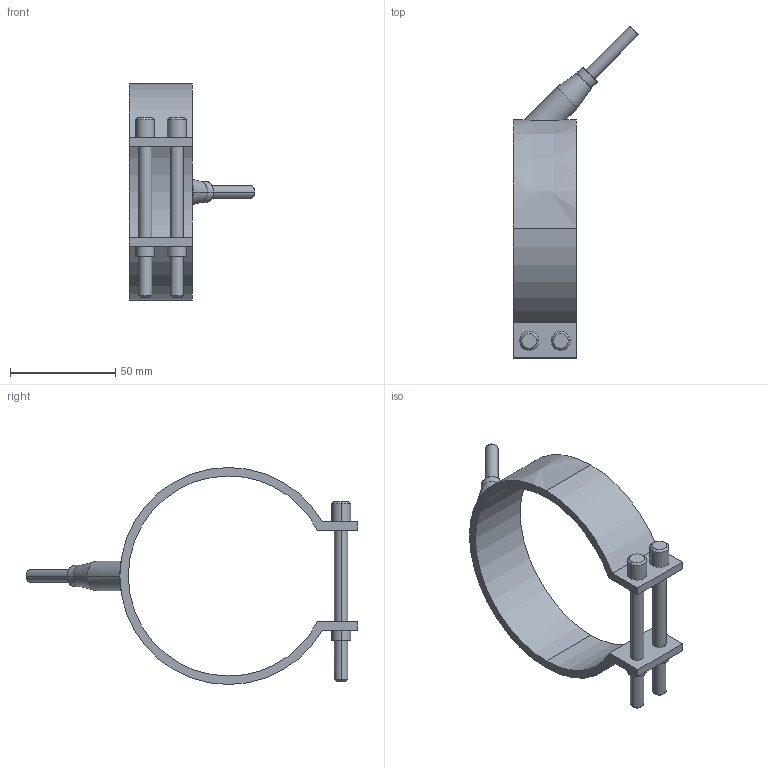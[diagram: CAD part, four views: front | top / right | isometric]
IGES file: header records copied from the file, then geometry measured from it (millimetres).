
Start section: START RECORD GO HERE.
Global section: file name: 29095030.igs; native system: DASSAULT SYSTEMES CATIA V5 R20 - www.3ds.com; preprocessor: CATIA Version 5 Release 20 ; author: Utente; organization: NB04-ASUS; date: 20210329.195447; units: millimetre
Bounding box: 59.55 x 157.55 x 103 mm (x, y, z)
Surface area: 25275.4 mm2 (no closed solid volume)
Topology: 0 solids, 0 shells, 54 faces, 246 edges, 246 vertices
Faces by surface type: revolution 38, plane 16
